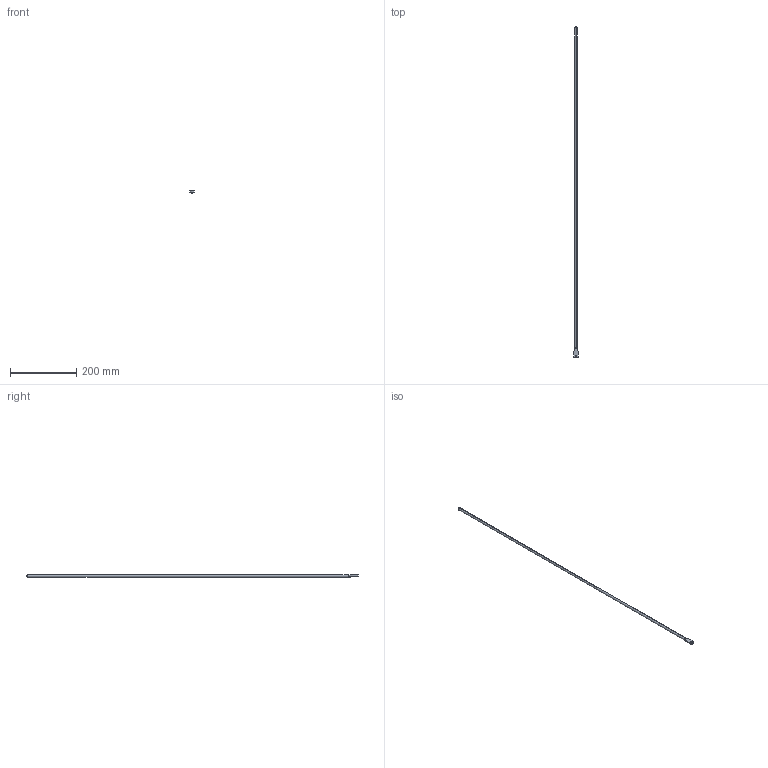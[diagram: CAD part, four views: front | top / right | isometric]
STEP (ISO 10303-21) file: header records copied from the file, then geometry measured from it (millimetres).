
FILE_DESCRIPTION (( 'STEP AP214' ), '1' );
FILE_NAME ('P28L.STEP', '2016-08-18T06:23:51', ( 'RST-Dolba' ), ( '' ), 'SwSTEP 2.0', 'SolidWorks 2015', '' );
FILE_SCHEMA (( 'AUTOMOTIVE_DESIGN' ));
Length unit declared in the file: millimetre
Products named in the file (1): P28L
Bounding box: 13 x 1006 x 8 mm (x, y, z)
Volume: 50364.7 mm3; surface area: 25516.9 mm2
Topology: 1 solids, 1 shells, 20 faces, 51 edges, 29 vertices
Faces by surface type: cylinder 7, plane 5, bspline 4, cone 2, torus 2
Entity records: 816 total; most frequent: CARTESIAN_POINT 323, DIRECTION 100, ORIENTED_EDGE 94, EDGE_CURVE 47, AXIS2_PLACEMENT_3D 42, VERTEX_POINT 29, CIRCLE 25, EDGE_LOOP 22
